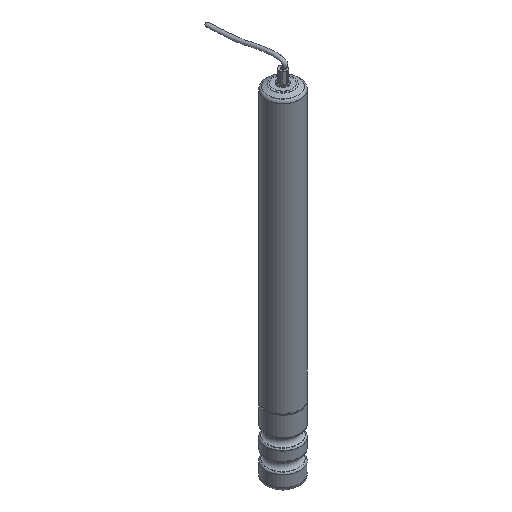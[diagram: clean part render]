
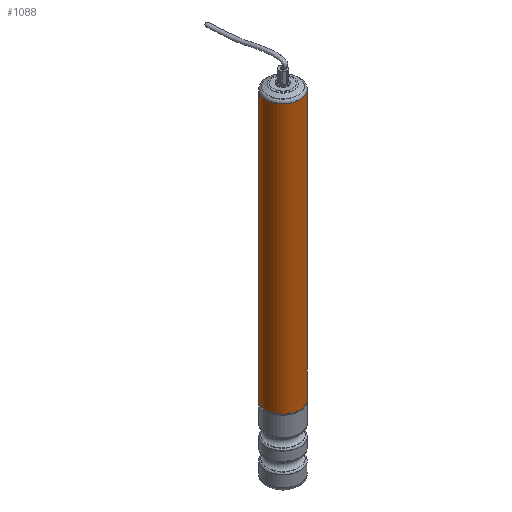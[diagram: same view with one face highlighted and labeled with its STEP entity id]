
A CAD part, isometric view. The second image highlights one B-rep face of the part: STEP entity #1088.
In plain terms, the highlighted cylindrical face has radius 25 mm (diameter 50 mm), a full revolution.
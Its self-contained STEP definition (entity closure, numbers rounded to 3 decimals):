
#119=FACE_OUTER_BOUND('',#196,.T.);
#196=EDGE_LOOP('',(#839,#840,#841,#842));
#260=LINE('',#2750,#306);
#306=VECTOR('',#1557,25.);
#376=CIRCLE('',#1241,25.);
#377=CIRCLE('',#1243,25.);
#479=VERTEX_POINT('',#2745);
#480=VERTEX_POINT('',#2748);
#607=EDGE_CURVE('',#479,#479,#376,.T.);
#608=EDGE_CURVE('',#480,#480,#377,.T.);
#609=EDGE_CURVE('',#480,#479,#260,.T.);
#839=ORIENTED_EDGE('',*,*,#608,.F.);
#840=ORIENTED_EDGE('',*,*,#609,.T.);
#841=ORIENTED_EDGE('',*,*,#607,.T.);
#842=ORIENTED_EDGE('',*,*,#609,.F.);
#966=CYLINDRICAL_SURFACE('',#1242,25.);
#1088=ADVANCED_FACE('',(#119),#966,.T.);
#1241=AXIS2_PLACEMENT_3D('',#2746,#1551,#1552);
#1242=AXIS2_PLACEMENT_3D('',#2747,#1553,#1554);
#1243=AXIS2_PLACEMENT_3D('',#2749,#1555,#1556);
#1551=DIRECTION('center_axis',(0.,0.,1.));
#1552=DIRECTION('ref_axis',(1.,0.,0.));
#1553=DIRECTION('center_axis',(0.,0.,1.));
#1554=DIRECTION('ref_axis',(1.,0.,0.));
#1555=DIRECTION('center_axis',(0.,0.,1.));
#1556=DIRECTION('ref_axis',(1.,0.,0.));
#1557=DIRECTION('',(0.,0.,-1.));
#2745=CARTESIAN_POINT('',(-25.,0.,108.));
#2746=CARTESIAN_POINT('Origin',(0.,0.,108.));
#2747=CARTESIAN_POINT('Origin',(0.,0.,7.));
#2748=CARTESIAN_POINT('',(-25.,0.,499.91));
#2749=CARTESIAN_POINT('Origin',(0.,0.,499.91));
#2750=CARTESIAN_POINT('',(-25.,0.,7.));
